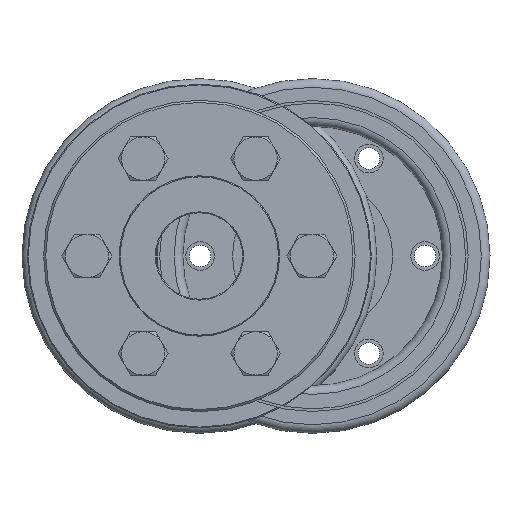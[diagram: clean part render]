
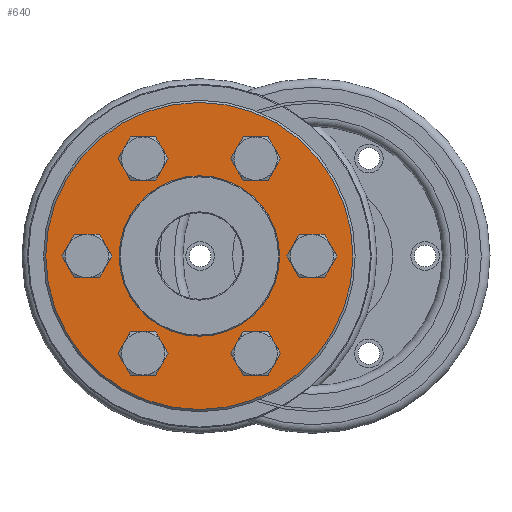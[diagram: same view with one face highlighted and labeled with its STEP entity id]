
A CAD part, left-side view. The second image highlights one B-rep face of the part: STEP entity #640.
In plain terms, the highlighted planar face has unit normal (-1, 0, 0).
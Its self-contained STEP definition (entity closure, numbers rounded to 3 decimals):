
#640 = ADVANCED_FACE( 'NONE', ( #976, #977, #978, #979, #980, #981, #982, #983 ), #984, .F. );
#976 = FACE_OUTER_BOUND( '', #1199, .T. );
#977 = FACE_BOUND( '', #1200, .T. );
#978 = FACE_BOUND( '', #1201, .T. );
#979 = FACE_BOUND( '', #1202, .T. );
#980 = FACE_BOUND( '', #1203, .T. );
#981 = FACE_BOUND( '', #1204, .T. );
#982 = FACE_BOUND( '', #1205, .T. );
#983 = FACE_BOUND( '', #1206, .T. );
#984 = PLANE( '', #1207 );
#1199 = EDGE_LOOP( '', ( #1578 ) );
#1200 = EDGE_LOOP( '', ( #1579 ) );
#1201 = EDGE_LOOP( '', ( #1580 ) );
#1202 = EDGE_LOOP( '', ( #1581 ) );
#1203 = EDGE_LOOP( '', ( #1582 ) );
#1204 = EDGE_LOOP( '', ( #1583 ) );
#1205 = EDGE_LOOP( '', ( #1584 ) );
#1206 = EDGE_LOOP( '', ( #1585 ) );
#1207 = AXIS2_PLACEMENT_3D( '', #1586, #1587, #1588 );
#1578 = ORIENTED_EDGE( '', *, *, #1809, .T. );
#1579 = ORIENTED_EDGE( '', *, *, #1808, .T. );
#1580 = ORIENTED_EDGE( '', *, *, #1806, .T. );
#1581 = ORIENTED_EDGE( '', *, *, #1810, .T. );
#1582 = ORIENTED_EDGE( '', *, *, #1811, .T. );
#1583 = ORIENTED_EDGE( '', *, *, #1812, .T. );
#1584 = ORIENTED_EDGE( '', *, *, #1813, .T. );
#1585 = ORIENTED_EDGE( '', *, *, #1814, .F. );
#1586 = CARTESIAN_POINT( '', ( 0., 18.5, 0. ) );
#1587 = DIRECTION( '', ( 1., 0., 0. ) );
#1588 = DIRECTION( '', ( 0., 1., 0. ) );
#1806 = EDGE_CURVE( 'NONE', #2035, #2035, #2036, .T. );
#1808 = EDGE_CURVE( 'NONE', #2039, #2039, #2040, .T. );
#1809 = EDGE_CURVE( 'NONE', #2041, #2041, #2042, .T. );
#1810 = EDGE_CURVE( 'NONE', #2043, #2043, #2044, .T. );
#1811 = EDGE_CURVE( 'NONE', #2045, #2045, #2046, .T. );
#1812 = EDGE_CURVE( 'NONE', #2047, #2047, #2048, .T. );
#1813 = EDGE_CURVE( 'NONE', #2049, #2049, #2050, .T. );
#1814 = EDGE_CURVE( 'NONE', #2051, #2051, #2052, .T. );
#2035 = VERTEX_POINT( '', #2221 );
#2036 = CIRCLE( '', #2222, 3.3 );
#2039 = VERTEX_POINT( '', #2225 );
#2040 = CIRCLE( '', #2226, 3.3 );
#2041 = VERTEX_POINT( '', #2227 );
#2042 = CIRCLE( '', #2228, 35.5 );
#2043 = VERTEX_POINT( '', #2229 );
#2044 = CIRCLE( '', #2230, 3.3 );
#2045 = VERTEX_POINT( '', #2231 );
#2046 = CIRCLE( '', #2232, 3.3 );
#2047 = VERTEX_POINT( '', #2233 );
#2048 = CIRCLE( '', #2234, 3.3 );
#2049 = VERTEX_POINT( '', #2235 );
#2050 = CIRCLE( '', #2236, 3.3 );
#2051 = VERTEX_POINT( '', #2237 );
#2052 = CIRCLE( '', #2238, 18.5 );
#2221 = CARTESIAN_POINT( '', ( 0., -13., 19.217 ) );
#2222 = AXIS2_PLACEMENT_3D( '', #2369, #2370, #2371 );
#2225 = CARTESIAN_POINT( '', ( 0., 13., 19.217 ) );
#2226 = AXIS2_PLACEMENT_3D( '', #2375, #2376, #2377 );
#2227 = CARTESIAN_POINT( '', ( 0., 0., -35.5 ) );
#2228 = AXIS2_PLACEMENT_3D( '', #2378, #2379, #2380 );
#2229 = CARTESIAN_POINT( '', ( 0., -26., -3.3 ) );
#2230 = AXIS2_PLACEMENT_3D( '', #2381, #2382, #2383 );
#2231 = CARTESIAN_POINT( '', ( 0., -13., -25.817 ) );
#2232 = AXIS2_PLACEMENT_3D( '', #2384, #2385, #2386 );
#2233 = CARTESIAN_POINT( '', ( 0., 13., -25.817 ) );
#2234 = AXIS2_PLACEMENT_3D( '', #2387, #2388, #2389 );
#2235 = CARTESIAN_POINT( '', ( 0., 26., -3.3 ) );
#2236 = AXIS2_PLACEMENT_3D( '', #2390, #2391, #2392 );
#2237 = CARTESIAN_POINT( '', ( 0., 0., 18.5 ) );
#2238 = AXIS2_PLACEMENT_3D( '', #2393, #2394, #2395 );
#2369 = CARTESIAN_POINT( '', ( 0., -13., 22.517 ) );
#2370 = DIRECTION( '', ( 1., 0., 0. ) );
#2371 = DIRECTION( '', ( 0., 0., -1. ) );
#2375 = CARTESIAN_POINT( '', ( 0., 13., 22.517 ) );
#2376 = DIRECTION( '', ( 1., 0., 0. ) );
#2377 = DIRECTION( '', ( 0., 0., -1. ) );
#2378 = CARTESIAN_POINT( '', ( 0., 0., 0. ) );
#2379 = DIRECTION( '', ( -1., 0., 0. ) );
#2380 = DIRECTION( '', ( 0., 0., -1. ) );
#2381 = CARTESIAN_POINT( '', ( 0., -26., 0. ) );
#2382 = DIRECTION( '', ( 1., 0., 0. ) );
#2383 = DIRECTION( '', ( 0., 0., -1. ) );
#2384 = CARTESIAN_POINT( '', ( 0., -13., -22.517 ) );
#2385 = DIRECTION( '', ( 1., 0., 0. ) );
#2386 = DIRECTION( '', ( 0., 0., -1. ) );
#2387 = CARTESIAN_POINT( '', ( 0., 13., -22.517 ) );
#2388 = DIRECTION( '', ( 1., 0., 0. ) );
#2389 = DIRECTION( '', ( 0., 0., -1. ) );
#2390 = CARTESIAN_POINT( '', ( 0., 26., 0. ) );
#2391 = DIRECTION( '', ( 1., 0., 0. ) );
#2392 = DIRECTION( '', ( 0., 0., -1. ) );
#2393 = CARTESIAN_POINT( '', ( 0., 0., 0. ) );
#2394 = DIRECTION( '', ( -1., 0., 0. ) );
#2395 = DIRECTION( '', ( 0., 0., 1. ) );
